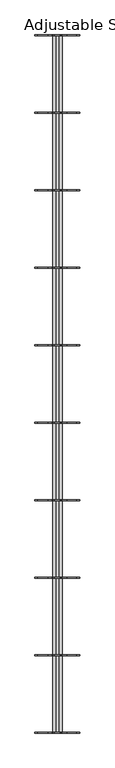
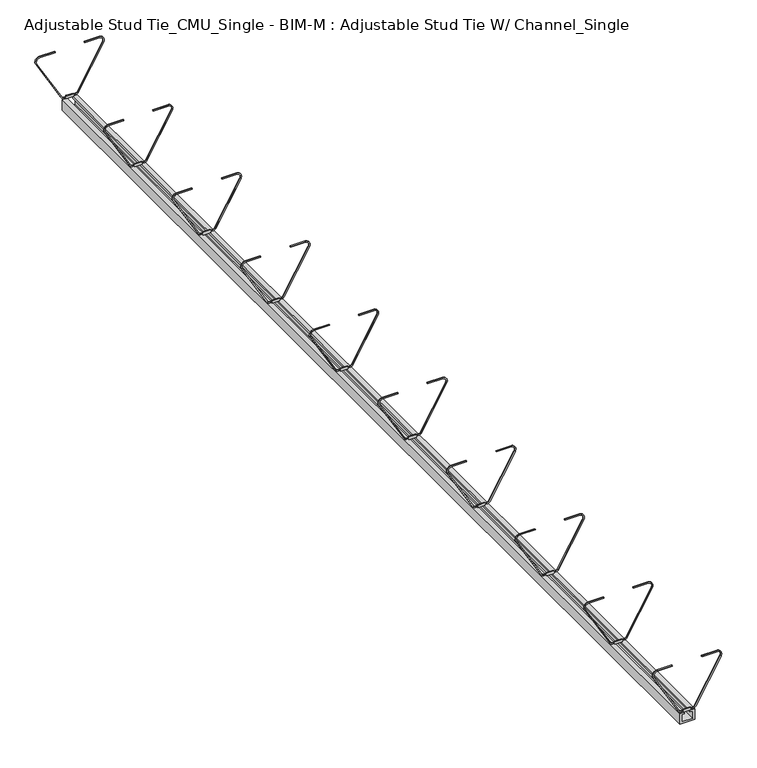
"""IFC4 building model written with IfcOpenShell, lengths in millimetres: proxy geometry, Adjustable Stud Tie_CMU_Single - BIM-M : Adjustable Stud Tie W/ Channel_Single."""

import ifcopenshell
import ifcopenshell.guid

model = None  # the IFC model being written
_history = None  # IfcOwnerHistory: only IFC2X3 demands one
_inside = {}  # id of a spatial element -> (the spatial element, [elements in it])
_under = {}  # id of a project, library or spatial element -> (it, [spatial elements below it])
_declared = {}  # id of a project -> (the project, [libraries it declares])
_typed = {}  # id of a type object -> (the type object, [elements of that type])
_made_of = {}  # id of a material, layer set ... -> (it, [elements and type objects made of it])


def new_model(schema):
    """Start an empty IFC model of exactly this schema.

    Asked for "IFC4X3", IfcOpenShell would pick the latest addendum, in which some entities
    have other attributes; the version numbers below select the first issue.
    IFC2X3 requires an IfcOwnerHistory on every rooted entity: one is made here for all.
    """
    global model, _history
    if schema == "IFC4X3":
        model = ifcopenshell.file(schema_version=(4, 3, 0, 0))
    else:
        model = ifcopenshell.file(schema=schema)
    _inside.clear()
    _under.clear()
    _declared.clear()
    _typed.clear()
    _made_of.clear()
    _history = None
    if model.schema == "IFC2X3":
        org = make("IfcOrganization", Name="unknown")
        user = make(
            "IfcPersonAndOrganization",
            ThePerson=make("IfcPerson", FamilyName="unknown"),
            TheOrganization=org,
        )
        app = make(
            "IfcApplication",
            ApplicationDeveloper=org,
            Version="unknown",
            ApplicationFullName="unknown",
            ApplicationIdentifier="unknown",
        )
        _history = make(
            "IfcOwnerHistory",
            OwningUser=user,
            OwningApplication=app,
            ChangeAction="ADDED",
            CreationDate=0,
        )
    return model


def make(cls, **values):
    """One entity of the class cls with the attributes given. An attribute that is None is left unset."""
    return model.create_entity(
        cls, **{name: value for name, value in values.items() if value is not None}
    )


def rooted(cls, **values):
    """An entity with a GlobalId (a new one), such as an element, a storey or a relation."""
    return make(cls, GlobalId=ifcopenshell.guid.new(), OwnerHistory=_history, **values)


def si_unit(unit_type, name, prefix=None):
    """IfcSIUnit, for example si_unit("LENGTHUNIT", "METRE", prefix="MILLI")."""
    return make("IfcSIUnit", UnitType=unit_type, Prefix=prefix, Name=name)


def assignment(units):
    """IfcUnitAssignment: the units of a project."""
    return None if units is None else make("IfcUnitAssignment", Units=units)


def point(xyz):
    """IfcCartesianPoint."""
    return None if xyz is None else make("IfcCartesianPoint", Coordinates=xyz)


def direction(xyz):
    """IfcDirection."""
    return None if xyz is None else make("IfcDirection", DirectionRatios=xyz)


def frame(location, z_axis=None, x_axis=None):
    """IfcAxis2Placement3D, a coordinate frame: its origin and axes. An axis left out is left unset."""
    return make(
        "IfcAxis2Placement3D",
        Location=point(location),
        Axis=direction(z_axis),
        RefDirection=direction(x_axis),
    )


def frame_2d(location, x_axis=None):
    """IfcAxis2Placement2D, a coordinate frame in the plane: its origin and x axis."""
    return make(
        "IfcAxis2Placement2D", Location=point(location), RefDirection=direction(x_axis)
    )


def origin():
    """The frame at (0, 0, 0) with its axes left unset."""
    return frame((0.0, 0.0, 0.0))


def place(relative_to, where):
    """IfcLocalPlacement: puts the frame where relative to a parent placement (None: the world)."""
    return make(
        "IfcLocalPlacement", PlacementRelTo=relative_to, RelativePlacement=where
    )


def context(
    kind, dimensions, precision=None, world=None, true_north=None, identifier=None
):
    """IfcGeometricRepresentationContext, for example the 3D "Model" context."""
    return make(
        "IfcGeometricRepresentationContext",
        ContextIdentifier=identifier,
        ContextType=kind,
        CoordinateSpaceDimension=dimensions,
        Precision=precision,
        WorldCoordinateSystem=world,
        TrueNorth=true_north,
    )


def project(units=None, contexts=None):
    """IfcProject with its units and contexts."""
    return rooted(
        "IfcProject",
        Name="project",
        RepresentationContexts=contexts,
        UnitsInContext=assignment(units),
    )


def spatial(cls, under=None, at=None, **own):
    """A site, building, storey or space (cls), placed at a placement, below another one or the project."""
    s = rooted(cls, ObjectPlacement=at, **own)
    if under is not None:
        _under.setdefault(under.id(), (under, []))[1].append(s)
    return s


def polyline(points):
    """IfcPolyline through the points."""
    return make("IfcPolyline", Points=[point(p) for p in points])


def circle_curve(where, radius):
    """IfcCircle in the frame where."""
    return make("IfcCircle", Position=where, Radius=radius)


def trimmed(basis, trim1, trim2, sense, master):
    """IfcTrimmedCurve: the piece of a basis curve between two trims."""
    return make(
        "IfcTrimmedCurve",
        BasisCurve=basis,
        Trim1=trim1,
        Trim2=trim2,
        SenseAgreement=sense,
        MasterRepresentation=master,
    )


def segment(curve, same_sense, transition):
    """IfcCompositeCurveSegment."""
    return make(
        "IfcCompositeCurveSegment",
        Transition=transition,
        SameSense=same_sense,
        ParentCurve=curve,
    )


def composite_curve(segments, self_intersect=None):
    """IfcCompositeCurve: segments joined end to end."""
    return make("IfcCompositeCurve", Segments=segments, SelfIntersect=self_intersect)


def outline(outer, holes=None, kind="AREA"):
    """IfcArbitraryClosedProfileDef: a profile drawn as a closed curve; with holes, ...WithVoids."""
    if holes is None:
        return make("IfcArbitraryClosedProfileDef", ProfileType=kind, OuterCurve=outer)
    return make(
        "IfcArbitraryProfileDefWithVoids",
        ProfileType=kind,
        OuterCurve=outer,
        InnerCurves=holes,
    )


def extrude(swept, where, along, depth):
    """IfcExtrudedAreaSolid: the profile swept, set in the frame where, extruded along a direction by depth."""
    return make(
        "IfcExtrudedAreaSolid",
        SweptArea=swept,
        Position=where,
        ExtrudedDirection=direction(along),
        Depth=depth,
    )


def shape(context_of_items, identifier, shape_type, items):
    """IfcShapeRepresentation: the items that make up one representation, for example the "Body"."""
    return make(
        "IfcShapeRepresentation",
        ContextOfItems=context_of_items,
        RepresentationIdentifier=identifier,
        RepresentationType=shape_type,
        Items=items,
    )


def source(mapping_origin, context_of_items, identifier, shape_type, items):
    """IfcRepresentationMap: a shape defined once, which mapped items show again and again."""
    return make(
        "IfcRepresentationMap",
        MappingOrigin=mapping_origin,
        MappedRepresentation=shape(context_of_items, identifier, shape_type, items),
    )


def transform(
    local_origin,
    x_axis=None,
    y_axis=None,
    z_axis=None,
    scale=None,
    scale2=None,
    scale3=None,
    uniform=True,
):
    """IfcCartesianTransformationOperator3D, or its non-uniform kind. x_axis, y_axis, z_axis: its Axis1, 2, 3."""
    if uniform:
        return make(
            "IfcCartesianTransformationOperator3D",
            Axis1=direction(x_axis),
            Axis2=direction(y_axis),
            LocalOrigin=point(local_origin),
            Scale=scale,
            Axis3=direction(z_axis),
        )
    return make(
        "IfcCartesianTransformationOperator3DnonUniform",
        Axis1=direction(x_axis),
        Axis2=direction(y_axis),
        LocalOrigin=point(local_origin),
        Scale=scale,
        Axis3=direction(z_axis),
        Scale2=scale2,
        Scale3=scale3,
    )


def mapped(mapping_source, mapping_target):
    """IfcMappedItem: shows the shape of a source again, moved by a transform."""
    return make(
        "IfcMappedItem", MappingSource=mapping_source, MappingTarget=mapping_target
    )


def made_of(thing, what):
    """Note that an element or type object is made of a material, layer set ...; save() writes the relation."""
    if what is not None:
        _made_of.setdefault(what.id(), (what, []))[1].append(thing)
    return thing


def element(
    cls,
    number,
    at=None,
    inside=None,
    cuts=None,
    type_object=None,
    material=None,
    context=None,
    identifier="Body",
    shape_type=None,
    held_by="IfcProductDefinitionShape",
    body=None,
    shapes=None,
    **own,
):
    """One element of the class cls, such as IfcWall. Its Tag is "e" and its number.

    at: its placement. inside: the storey or other place that contains it. cuts: it is an
    opening in that element (IfcRelVoidsElement). A single representation is given by context,
    identifier, shape_type and body (its items); several are given by shapes. held_by: the class
    of the entity that holds the representations. save() writes the other relations.
    """
    e = rooted(cls, Tag="e%d" % number, ObjectPlacement=at, **own)
    if body is not None:
        shapes = [shape(context, identifier, shape_type, body)]
    if shapes is not None:
        e.Representation = make(held_by, Representations=shapes)
    if inside is not None:
        _inside.setdefault(inside.id(), (inside, []))[1].append(e)
    if cuts is not None:
        rooted(
            "IfcRelVoidsElement", RelatingBuildingElement=cuts, RelatedOpeningElement=e
        )
    if type_object is not None:
        _typed.setdefault(type_object.id(), (type_object, []))[1].append(e)
    return made_of(e, material)


def aggregate(whole, parts):
    """IfcRelAggregates: a whole, such as a stair, and the parts it consists of."""
    return rooted("IfcRelAggregates", RelatingObject=whole, RelatedObjects=parts)


def save(model, path):
    """Write the relations noted so far, then the file.

    IfcRelAggregates (storeys below a building ...), IfcRelContainedInSpatialStructure (elements
    in a storey), IfcRelDefinesByType, IfcRelAssociatesMaterial and IfcRelDeclares: one each for
    every whole, place, type object, material and project.
    """
    for whole, parts in _under.values():
        aggregate(whole, parts)
    for where, things in _inside.values():
        rooted(
            "IfcRelContainedInSpatialStructure",
            RelatedElements=things,
            RelatingStructure=where,
        )
    for kind, things in _typed.values():
        rooted("IfcRelDefinesByType", RelatedObjects=things, RelatingType=kind)
    for what, things in _made_of.values():
        rooted("IfcRelAssociatesMaterial", RelatedObjects=things, RelatingMaterial=what)
    for by, libraries in _declared.values():
        rooted("IfcRelDeclares", RelatingContext=by, RelatedDefinitions=libraries)
    model.write(path)


def adjustable_stud_tie_cmu_single_bim_m_adjustable_stud_tie_w_4d993568(model_context):
    return source(origin(), model_context, "Body", "SweptSolid", [
        extrude(outline(composite_curve([segment(polyline([(-115.6954737, -10.6919936), (-115.6954737, -6.35), (-117.475, -6.35), (-117.475, 6.35), (-115.6954737, 6.35), (-115.6954737, 10.6919936)]), True, "CONTINUOUS"), segment(trimmed(circle_curve(frame_2d((-111.2621335, 10.5975194)), 4.4343467), [point((-115.6954737, 10.6919936))], [point((-113.4793069, 14.4377763))], False, "CARTESIAN"), True, "CONTINUOUS"), segment(polyline([(-113.4793069, 14.4377763), (-38.3089403, 57.8374077)]), True, "CONTINUOUS"), segment(trimmed(circle_curve(frame_2d((-34.2420568, 50.7933588)), 8.133767), [point((-38.3089403, 57.8374077))], [point((-26.1197927, 51.2257847))], False, "CARTESIAN"), True, "CONTINUOUS"), segment(polyline([(-26.1197927, 51.2257847), (-26.1197927, 25.4), (-27.7072927, 25.4), (-27.7072927, 51.1812638)]), True, "CONTINUOUS"), segment(trimmed(circle_curve(frame_2d((-34.2420568, 50.7933588)), 6.546267), [point((-27.7072927, 51.1812638))], [point((-37.5151903, 56.4625923))], True, "CARTESIAN"), True, "CONTINUOUS"), segment(polyline([(-37.5151903, 56.4625923), (-112.6855569, 13.062961)]), True, "CONTINUOUS"), segment(trimmed(circle_curve(frame_2d((-111.2621335, 10.5975194)), 2.8468467), [point((-112.6855569, 13.062961))], [point((-114.1079737, 10.6732143))], True, "CARTESIAN"), True, "CONTINUOUS"), segment(polyline([(-114.1079737, 10.6732143), (-114.1079737, 6.35), (-112.7125, 6.35), (-112.7125, -6.35), (-114.1079737, -6.35), (-114.1079737, -10.6732143)]), True, "CONTINUOUS"), segment(trimmed(circle_curve(frame_2d((-111.2621335, -10.5975194)), 2.8468467), [point((-114.1079737, -10.6732143))], [point((-112.6855569, -13.062961))], True, "CARTESIAN"), True, "CONTINUOUS"), segment(polyline([(-112.6855569, -13.062961), (-37.5151903, -56.4625923)]), True, "CONTINUOUS"), segment(trimmed(circle_curve(frame_2d((-34.2420568, -50.7933588)), 6.546267), [point((-37.5151903, -56.4625923))], [point((-27.7072927, -51.1812638))], True, "CARTESIAN"), True, "CONTINUOUS"), segment(polyline([(-27.7072927, -51.1812638), (-27.7072927, -25.4), (-26.1197927, -25.4), (-26.1197927, -51.2257847)]), True, "CONTINUOUS"), segment(trimmed(circle_curve(frame_2d((-34.2420568, -50.7933588)), 8.133767), [point((-26.1197927, -51.2257847))], [point((-38.3089403, -57.8374077))], False, "CARTESIAN"), True, "CONTINUOUS"), segment(polyline([(-38.3089403, -57.8374077), (-113.4793069, -14.4377763)]), True, "CONTINUOUS"), segment(trimmed(circle_curve(frame_2d((-111.2621335, -10.5975194)), 4.4343467), [point((-113.4793069, -14.4377763))], [point((-115.6954737, -10.6919936))], False, "CARTESIAN"), True, "CONTINUOUS")], self_intersect=False)), frame((0.0, 1828.8, 0.0), z_axis=(0.0, 1.0, 0.0), x_axis=(0.0, 0.0, 1.0)), (0.0, 0.0, 1.0), 1.5875),
        extrude(outline(composite_curve([segment(polyline([(-115.6954737, -10.6919936), (-115.6954737, -6.35), (-117.475, -6.35), (-117.475, 6.35), (-115.6954737, 6.35), (-115.6954737, 10.6919936)]), True, "CONTINUOUS"), segment(trimmed(circle_curve(frame_2d((-111.2621335, 10.5975194)), 4.4343467), [point((-115.6954737, 10.6919936))], [point((-113.4793069, 14.4377763))], False, "CARTESIAN"), True, "CONTINUOUS"), segment(polyline([(-113.4793069, 14.4377763), (-38.3089403, 57.8374077)]), True, "CONTINUOUS"), segment(trimmed(circle_curve(frame_2d((-34.2420568, 50.7933588)), 8.133767), [point((-38.3089403, 57.8374077))], [point((-26.1197927, 51.2257847))], False, "CARTESIAN"), True, "CONTINUOUS"), segment(polyline([(-26.1197927, 51.2257847), (-26.1197927, 25.4), (-27.7072927, 25.4), (-27.7072927, 51.1812638)]), True, "CONTINUOUS"), segment(trimmed(circle_curve(frame_2d((-34.2420568, 50.7933588)), 6.546267), [point((-27.7072927, 51.1812638))], [point((-37.5151903, 56.4625923))], True, "CARTESIAN"), True, "CONTINUOUS"), segment(polyline([(-37.5151903, 56.4625923), (-112.6855569, 13.062961)]), True, "CONTINUOUS"), segment(trimmed(circle_curve(frame_2d((-111.2621335, 10.5975194)), 2.8468467), [point((-112.6855569, 13.062961))], [point((-114.1079737, 10.6732143))], True, "CARTESIAN"), True, "CONTINUOUS"), segment(polyline([(-114.1079737, 10.6732143), (-114.1079737, 6.35), (-112.7125, 6.35), (-112.7125, -6.35), (-114.1079737, -6.35), (-114.1079737, -10.6732143)]), True, "CONTINUOUS"), segment(trimmed(circle_curve(frame_2d((-111.2621335, -10.5975194)), 2.8468467), [point((-114.1079737, -10.6732143))], [point((-112.6855569, -13.062961))], True, "CARTESIAN"), True, "CONTINUOUS"), segment(polyline([(-112.6855569, -13.062961), (-37.5151903, -56.4625923)]), True, "CONTINUOUS"), segment(trimmed(circle_curve(frame_2d((-34.2420568, -50.7933588)), 6.546267), [point((-37.5151903, -56.4625923))], [point((-27.7072927, -51.1812638))], True, "CARTESIAN"), True, "CONTINUOUS"), segment(polyline([(-27.7072927, -51.1812638), (-27.7072927, -25.4), (-26.1197927, -25.4), (-26.1197927, -51.2257847)]), True, "CONTINUOUS"), segment(trimmed(circle_curve(frame_2d((-34.2420568, -50.7933588)), 8.133767), [point((-26.1197927, -51.2257847))], [point((-38.3089403, -57.8374077))], False, "CARTESIAN"), True, "CONTINUOUS"), segment(polyline([(-38.3089403, -57.8374077), (-113.4793069, -14.4377763)]), True, "CONTINUOUS"), segment(trimmed(circle_curve(frame_2d((-111.2621335, -10.5975194)), 4.4343467), [point((-113.4793069, -14.4377763))], [point((-115.6954737, -10.6919936))], False, "CARTESIAN"), True, "CONTINUOUS")], self_intersect=False)), frame((0.0, 1625.6, 0.0), z_axis=(0.0, 1.0, 0.0), x_axis=(0.0, 0.0, 1.0)), (0.0, 0.0, 1.0), 1.5875),
        extrude(outline(composite_curve([segment(polyline([(-115.6954737, -10.6919936), (-115.6954737, -6.35), (-117.475, -6.35), (-117.475, 6.35), (-115.6954737, 6.35), (-115.6954737, 10.6919936)]), True, "CONTINUOUS"), segment(trimmed(circle_curve(frame_2d((-111.2621335, 10.5975194)), 4.4343467), [point((-115.6954737, 10.6919936))], [point((-113.4793069, 14.4377763))], False, "CARTESIAN"), True, "CONTINUOUS"), segment(polyline([(-113.4793069, 14.4377763), (-38.3089403, 57.8374077)]), True, "CONTINUOUS"), segment(trimmed(circle_curve(frame_2d((-34.2420568, 50.7933588)), 8.133767), [point((-38.3089403, 57.8374077))], [point((-26.1197927, 51.2257847))], False, "CARTESIAN"), True, "CONTINUOUS"), segment(polyline([(-26.1197927, 51.2257847), (-26.1197927, 25.4), (-27.7072927, 25.4), (-27.7072927, 51.1812638)]), True, "CONTINUOUS"), segment(trimmed(circle_curve(frame_2d((-34.2420568, 50.7933588)), 6.546267), [point((-27.7072927, 51.1812638))], [point((-37.5151903, 56.4625923))], True, "CARTESIAN"), True, "CONTINUOUS"), segment(polyline([(-37.5151903, 56.4625923), (-112.6855569, 13.062961)]), True, "CONTINUOUS"), segment(trimmed(circle_curve(frame_2d((-111.2621335, 10.5975194)), 2.8468467), [point((-112.6855569, 13.062961))], [point((-114.1079737, 10.6732143))], True, "CARTESIAN"), True, "CONTINUOUS"), segment(polyline([(-114.1079737, 10.6732143), (-114.1079737, 6.35), (-112.7125, 6.35), (-112.7125, -6.35), (-114.1079737, -6.35), (-114.1079737, -10.6732143)]), True, "CONTINUOUS"), segment(trimmed(circle_curve(frame_2d((-111.2621335, -10.5975194)), 2.8468467), [point((-114.1079737, -10.6732143))], [point((-112.6855569, -13.062961))], True, "CARTESIAN"), True, "CONTINUOUS"), segment(polyline([(-112.6855569, -13.062961), (-37.5151903, -56.4625923)]), True, "CONTINUOUS"), segment(trimmed(circle_curve(frame_2d((-34.2420568, -50.7933588)), 6.546267), [point((-37.5151903, -56.4625923))], [point((-27.7072927, -51.1812638))], True, "CARTESIAN"), True, "CONTINUOUS"), segment(polyline([(-27.7072927, -51.1812638), (-27.7072927, -25.4), (-26.1197927, -25.4), (-26.1197927, -51.2257847)]), True, "CONTINUOUS"), segment(trimmed(circle_curve(frame_2d((-34.2420568, -50.7933588)), 8.133767), [point((-26.1197927, -51.2257847))], [point((-38.3089403, -57.8374077))], False, "CARTESIAN"), True, "CONTINUOUS"), segment(polyline([(-38.3089403, -57.8374077), (-113.4793069, -14.4377763)]), True, "CONTINUOUS"), segment(trimmed(circle_curve(frame_2d((-111.2621335, -10.5975194)), 4.4343467), [point((-113.4793069, -14.4377763))], [point((-115.6954737, -10.6919936))], False, "CARTESIAN"), True, "CONTINUOUS")], self_intersect=False)), frame((0.0, 1422.4, 0.0), z_axis=(0.0, 1.0, 0.0), x_axis=(0.0, 0.0, 1.0)), (0.0, 0.0, 1.0), 1.5875),
        extrude(outline(composite_curve([segment(polyline([(-115.6954737, -10.6919936), (-115.6954737, -6.35), (-117.475, -6.35), (-117.475, 6.35), (-115.6954737, 6.35), (-115.6954737, 10.6919936)]), True, "CONTINUOUS"), segment(trimmed(circle_curve(frame_2d((-111.2621335, 10.5975194)), 4.4343467), [point((-115.6954737, 10.6919936))], [point((-113.4793069, 14.4377763))], False, "CARTESIAN"), True, "CONTINUOUS"), segment(polyline([(-113.4793069, 14.4377763), (-38.3089403, 57.8374077)]), True, "CONTINUOUS"), segment(trimmed(circle_curve(frame_2d((-34.2420568, 50.7933588)), 8.133767), [point((-38.3089403, 57.8374077))], [point((-26.1197927, 51.2257847))], False, "CARTESIAN"), True, "CONTINUOUS"), segment(polyline([(-26.1197927, 51.2257847), (-26.1197927, 25.4), (-27.7072927, 25.4), (-27.7072927, 51.1812638)]), True, "CONTINUOUS"), segment(trimmed(circle_curve(frame_2d((-34.2420568, 50.7933588)), 6.546267), [point((-27.7072927, 51.1812638))], [point((-37.5151903, 56.4625923))], True, "CARTESIAN"), True, "CONTINUOUS"), segment(polyline([(-37.5151903, 56.4625923), (-112.6855569, 13.062961)]), True, "CONTINUOUS"), segment(trimmed(circle_curve(frame_2d((-111.2621335, 10.5975194)), 2.8468467), [point((-112.6855569, 13.062961))], [point((-114.1079737, 10.6732143))], True, "CARTESIAN"), True, "CONTINUOUS"), segment(polyline([(-114.1079737, 10.6732143), (-114.1079737, 6.35), (-112.7125, 6.35), (-112.7125, -6.35), (-114.1079737, -6.35), (-114.1079737, -10.6732143)]), True, "CONTINUOUS"), segment(trimmed(circle_curve(frame_2d((-111.2621335, -10.5975194)), 2.8468467), [point((-114.1079737, -10.6732143))], [point((-112.6855569, -13.062961))], True, "CARTESIAN"), True, "CONTINUOUS"), segment(polyline([(-112.6855569, -13.062961), (-37.5151903, -56.4625923)]), True, "CONTINUOUS"), segment(trimmed(circle_curve(frame_2d((-34.2420568, -50.7933588)), 6.546267), [point((-37.5151903, -56.4625923))], [point((-27.7072927, -51.1812638))], True, "CARTESIAN"), True, "CONTINUOUS"), segment(polyline([(-27.7072927, -51.1812638), (-27.7072927, -25.4), (-26.1197927, -25.4), (-26.1197927, -51.2257847)]), True, "CONTINUOUS"), segment(trimmed(circle_curve(frame_2d((-34.2420568, -50.7933588)), 8.133767), [point((-26.1197927, -51.2257847))], [point((-38.3089403, -57.8374077))], False, "CARTESIAN"), True, "CONTINUOUS"), segment(polyline([(-38.3089403, -57.8374077), (-113.4793069, -14.4377763)]), True, "CONTINUOUS"), segment(trimmed(circle_curve(frame_2d((-111.2621335, -10.5975194)), 4.4343467), [point((-113.4793069, -14.4377763))], [point((-115.6954737, -10.6919936))], False, "CARTESIAN"), True, "CONTINUOUS")], self_intersect=False)), frame((0.0, 1219.2, 0.0), z_axis=(0.0, 1.0, 0.0), x_axis=(0.0, 0.0, 1.0)), (0.0, 0.0, 1.0), 1.5875),
        extrude(outline(composite_curve([segment(polyline([(-115.6954737, -10.6919936), (-115.6954737, -6.35), (-117.475, -6.35), (-117.475, 6.35), (-115.6954737, 6.35), (-115.6954737, 10.6919936)]), True, "CONTINUOUS"), segment(trimmed(circle_curve(frame_2d((-111.2621335, 10.5975194)), 4.4343467), [point((-115.6954737, 10.6919936))], [point((-113.4793069, 14.4377763))], False, "CARTESIAN"), True, "CONTINUOUS"), segment(polyline([(-113.4793069, 14.4377763), (-38.3089403, 57.8374077)]), True, "CONTINUOUS"), segment(trimmed(circle_curve(frame_2d((-34.2420568, 50.7933588)), 8.133767), [point((-38.3089403, 57.8374077))], [point((-26.1197927, 51.2257847))], False, "CARTESIAN"), True, "CONTINUOUS"), segment(polyline([(-26.1197927, 51.2257847), (-26.1197927, 25.4), (-27.7072927, 25.4), (-27.7072927, 51.1812638)]), True, "CONTINUOUS"), segment(trimmed(circle_curve(frame_2d((-34.2420568, 50.7933588)), 6.546267), [point((-27.7072927, 51.1812638))], [point((-37.5151903, 56.4625923))], True, "CARTESIAN"), True, "CONTINUOUS"), segment(polyline([(-37.5151903, 56.4625923), (-112.6855569, 13.062961)]), True, "CONTINUOUS"), segment(trimmed(circle_curve(frame_2d((-111.2621335, 10.5975194)), 2.8468467), [point((-112.6855569, 13.062961))], [point((-114.1079737, 10.6732143))], True, "CARTESIAN"), True, "CONTINUOUS"), segment(polyline([(-114.1079737, 10.6732143), (-114.1079737, 6.35), (-112.7125, 6.35), (-112.7125, -6.35), (-114.1079737, -6.35), (-114.1079737, -10.6732143)]), True, "CONTINUOUS"), segment(trimmed(circle_curve(frame_2d((-111.2621335, -10.5975194)), 2.8468467), [point((-114.1079737, -10.6732143))], [point((-112.6855569, -13.062961))], True, "CARTESIAN"), True, "CONTINUOUS"), segment(polyline([(-112.6855569, -13.062961), (-37.5151903, -56.4625923)]), True, "CONTINUOUS"), segment(trimmed(circle_curve(frame_2d((-34.2420568, -50.7933588)), 6.546267), [point((-37.5151903, -56.4625923))], [point((-27.7072927, -51.1812638))], True, "CARTESIAN"), True, "CONTINUOUS"), segment(polyline([(-27.7072927, -51.1812638), (-27.7072927, -25.4), (-26.1197927, -25.4), (-26.1197927, -51.2257847)]), True, "CONTINUOUS"), segment(trimmed(circle_curve(frame_2d((-34.2420568, -50.7933588)), 8.133767), [point((-26.1197927, -51.2257847))], [point((-38.3089403, -57.8374077))], False, "CARTESIAN"), True, "CONTINUOUS"), segment(polyline([(-38.3089403, -57.8374077), (-113.4793069, -14.4377763)]), True, "CONTINUOUS"), segment(trimmed(circle_curve(frame_2d((-111.2621335, -10.5975194)), 4.4343467), [point((-113.4793069, -14.4377763))], [point((-115.6954737, -10.6919936))], False, "CARTESIAN"), True, "CONTINUOUS")], self_intersect=False)), frame((0.0, 1016.0, 0.0), z_axis=(0.0, 1.0, 0.0), x_axis=(0.0, 0.0, 1.0)), (0.0, 0.0, 1.0), 1.5875),
        extrude(outline(composite_curve([segment(polyline([(-115.6954737, -10.6919936), (-115.6954737, -6.35), (-117.475, -6.35), (-117.475, 6.35), (-115.6954737, 6.35), (-115.6954737, 10.6919936)]), True, "CONTINUOUS"), segment(trimmed(circle_curve(frame_2d((-111.2621335, 10.5975194)), 4.4343467), [point((-115.6954737, 10.6919936))], [point((-113.4793069, 14.4377763))], False, "CARTESIAN"), True, "CONTINUOUS"), segment(polyline([(-113.4793069, 14.4377763), (-38.3089403, 57.8374077)]), True, "CONTINUOUS"), segment(trimmed(circle_curve(frame_2d((-34.2420568, 50.7933588)), 8.133767), [point((-38.3089403, 57.8374077))], [point((-26.1197927, 51.2257847))], False, "CARTESIAN"), True, "CONTINUOUS"), segment(polyline([(-26.1197927, 51.2257847), (-26.1197927, 25.4), (-27.7072927, 25.4), (-27.7072927, 51.1812638)]), True, "CONTINUOUS"), segment(trimmed(circle_curve(frame_2d((-34.2420568, 50.7933588)), 6.546267), [point((-27.7072927, 51.1812638))], [point((-37.5151903, 56.4625923))], True, "CARTESIAN"), True, "CONTINUOUS"), segment(polyline([(-37.5151903, 56.4625923), (-112.6855569, 13.062961)]), True, "CONTINUOUS"), segment(trimmed(circle_curve(frame_2d((-111.2621335, 10.5975194)), 2.8468467), [point((-112.6855569, 13.062961))], [point((-114.1079737, 10.6732143))], True, "CARTESIAN"), True, "CONTINUOUS"), segment(polyline([(-114.1079737, 10.6732143), (-114.1079737, 6.35), (-112.7125, 6.35), (-112.7125, -6.35), (-114.1079737, -6.35), (-114.1079737, -10.6732143)]), True, "CONTINUOUS"), segment(trimmed(circle_curve(frame_2d((-111.2621335, -10.5975194)), 2.8468467), [point((-114.1079737, -10.6732143))], [point((-112.6855569, -13.062961))], True, "CARTESIAN"), True, "CONTINUOUS"), segment(polyline([(-112.6855569, -13.062961), (-37.5151903, -56.4625923)]), True, "CONTINUOUS"), segment(trimmed(circle_curve(frame_2d((-34.2420568, -50.7933588)), 6.546267), [point((-37.5151903, -56.4625923))], [point((-27.7072927, -51.1812638))], True, "CARTESIAN"), True, "CONTINUOUS"), segment(polyline([(-27.7072927, -51.1812638), (-27.7072927, -25.4), (-26.1197927, -25.4), (-26.1197927, -51.2257847)]), True, "CONTINUOUS"), segment(trimmed(circle_curve(frame_2d((-34.2420568, -50.7933588)), 8.133767), [point((-26.1197927, -51.2257847))], [point((-38.3089403, -57.8374077))], False, "CARTESIAN"), True, "CONTINUOUS"), segment(polyline([(-38.3089403, -57.8374077), (-113.4793069, -14.4377763)]), True, "CONTINUOUS"), segment(trimmed(circle_curve(frame_2d((-111.2621335, -10.5975194)), 4.4343467), [point((-113.4793069, -14.4377763))], [point((-115.6954737, -10.6919936))], False, "CARTESIAN"), True, "CONTINUOUS")], self_intersect=False)), frame((0.0, 812.8, 0.0), z_axis=(0.0, 1.0, 0.0), x_axis=(0.0, 0.0, 1.0)), (0.0, 0.0, 1.0), 1.5875),
        extrude(outline(composite_curve([segment(polyline([(-115.6954737, -10.6919936), (-115.6954737, -6.35), (-117.475, -6.35), (-117.475, 6.35), (-115.6954737, 6.35), (-115.6954737, 10.6919936)]), True, "CONTINUOUS"), segment(trimmed(circle_curve(frame_2d((-111.2621335, 10.5975194)), 4.4343467), [point((-115.6954737, 10.6919936))], [point((-113.4793069, 14.4377763))], False, "CARTESIAN"), True, "CONTINUOUS"), segment(polyline([(-113.4793069, 14.4377763), (-38.3089403, 57.8374077)]), True, "CONTINUOUS"), segment(trimmed(circle_curve(frame_2d((-34.2420568, 50.7933588)), 8.133767), [point((-38.3089403, 57.8374077))], [point((-26.1197927, 51.2257847))], False, "CARTESIAN"), True, "CONTINUOUS"), segment(polyline([(-26.1197927, 51.2257847), (-26.1197927, 25.4), (-27.7072927, 25.4), (-27.7072927, 51.1812638)]), True, "CONTINUOUS"), segment(trimmed(circle_curve(frame_2d((-34.2420568, 50.7933588)), 6.546267), [point((-27.7072927, 51.1812638))], [point((-37.5151903, 56.4625923))], True, "CARTESIAN"), True, "CONTINUOUS"), segment(polyline([(-37.5151903, 56.4625923), (-112.6855569, 13.062961)]), True, "CONTINUOUS"), segment(trimmed(circle_curve(frame_2d((-111.2621335, 10.5975194)), 2.8468467), [point((-112.6855569, 13.062961))], [point((-114.1079737, 10.6732143))], True, "CARTESIAN"), True, "CONTINUOUS"), segment(polyline([(-114.1079737, 10.6732143), (-114.1079737, 6.35), (-112.7125, 6.35), (-112.7125, -6.35), (-114.1079737, -6.35), (-114.1079737, -10.6732143)]), True, "CONTINUOUS"), segment(trimmed(circle_curve(frame_2d((-111.2621335, -10.5975194)), 2.8468467), [point((-114.1079737, -10.6732143))], [point((-112.6855569, -13.062961))], True, "CARTESIAN"), True, "CONTINUOUS"), segment(polyline([(-112.6855569, -13.062961), (-37.5151903, -56.4625923)]), True, "CONTINUOUS"), segment(trimmed(circle_curve(frame_2d((-34.2420568, -50.7933588)), 6.546267), [point((-37.5151903, -56.4625923))], [point((-27.7072927, -51.1812638))], True, "CARTESIAN"), True, "CONTINUOUS"), segment(polyline([(-27.7072927, -51.1812638), (-27.7072927, -25.4), (-26.1197927, -25.4), (-26.1197927, -51.2257847)]), True, "CONTINUOUS"), segment(trimmed(circle_curve(frame_2d((-34.2420568, -50.7933588)), 8.133767), [point((-26.1197927, -51.2257847))], [point((-38.3089403, -57.8374077))], False, "CARTESIAN"), True, "CONTINUOUS"), segment(polyline([(-38.3089403, -57.8374077), (-113.4793069, -14.4377763)]), True, "CONTINUOUS"), segment(trimmed(circle_curve(frame_2d((-111.2621335, -10.5975194)), 4.4343467), [point((-113.4793069, -14.4377763))], [point((-115.6954737, -10.6919936))], False, "CARTESIAN"), True, "CONTINUOUS")], self_intersect=False)), frame((0.0, 609.6, 0.0), z_axis=(0.0, 1.0, 0.0), x_axis=(0.0, 0.0, 1.0)), (0.0, 0.0, 1.0), 1.5875),
        extrude(outline(composite_curve([segment(polyline([(-115.6954737, -10.6919936), (-115.6954737, -6.35), (-117.475, -6.35), (-117.475, 6.35), (-115.6954737, 6.35), (-115.6954737, 10.6919936)]), True, "CONTINUOUS"), segment(trimmed(circle_curve(frame_2d((-111.2621335, 10.5975194)), 4.4343467), [point((-115.6954737, 10.6919936))], [point((-113.4793069, 14.4377763))], False, "CARTESIAN"), True, "CONTINUOUS"), segment(polyline([(-113.4793069, 14.4377763), (-38.3089403, 57.8374077)]), True, "CONTINUOUS"), segment(trimmed(circle_curve(frame_2d((-34.2420568, 50.7933588)), 8.133767), [point((-38.3089403, 57.8374077))], [point((-26.1197927, 51.2257847))], False, "CARTESIAN"), True, "CONTINUOUS"), segment(polyline([(-26.1197927, 51.2257847), (-26.1197927, 25.4), (-27.7072927, 25.4), (-27.7072927, 51.1812638)]), True, "CONTINUOUS"), segment(trimmed(circle_curve(frame_2d((-34.2420568, 50.7933588)), 6.546267), [point((-27.7072927, 51.1812638))], [point((-37.5151903, 56.4625923))], True, "CARTESIAN"), True, "CONTINUOUS"), segment(polyline([(-37.5151903, 56.4625923), (-112.6855569, 13.062961)]), True, "CONTINUOUS"), segment(trimmed(circle_curve(frame_2d((-111.2621335, 10.5975194)), 2.8468467), [point((-112.6855569, 13.062961))], [point((-114.1079737, 10.6732143))], True, "CARTESIAN"), True, "CONTINUOUS"), segment(polyline([(-114.1079737, 10.6732143), (-114.1079737, 6.35), (-112.7125, 6.35), (-112.7125, -6.35), (-114.1079737, -6.35), (-114.1079737, -10.6732143)]), True, "CONTINUOUS"), segment(trimmed(circle_curve(frame_2d((-111.2621335, -10.5975194)), 2.8468467), [point((-114.1079737, -10.6732143))], [point((-112.6855569, -13.062961))], True, "CARTESIAN"), True, "CONTINUOUS"), segment(polyline([(-112.6855569, -13.062961), (-37.5151903, -56.4625923)]), True, "CONTINUOUS"), segment(trimmed(circle_curve(frame_2d((-34.2420568, -50.7933588)), 6.546267), [point((-37.5151903, -56.4625923))], [point((-27.7072927, -51.1812638))], True, "CARTESIAN"), True, "CONTINUOUS"), segment(polyline([(-27.7072927, -51.1812638), (-27.7072927, -25.4), (-26.1197927, -25.4), (-26.1197927, -51.2257847)]), True, "CONTINUOUS"), segment(trimmed(circle_curve(frame_2d((-34.2420568, -50.7933588)), 8.133767), [point((-26.1197927, -51.2257847))], [point((-38.3089403, -57.8374077))], False, "CARTESIAN"), True, "CONTINUOUS"), segment(polyline([(-38.3089403, -57.8374077), (-113.4793069, -14.4377763)]), True, "CONTINUOUS"), segment(trimmed(circle_curve(frame_2d((-111.2621335, -10.5975194)), 4.4343467), [point((-113.4793069, -14.4377763))], [point((-115.6954737, -10.6919936))], False, "CARTESIAN"), True, "CONTINUOUS")], self_intersect=False)), frame((0.0, 406.4, 0.0), z_axis=(0.0, 1.0, 0.0), x_axis=(0.0, 0.0, 1.0)), (0.0, 0.0, 1.0), 1.5875),
        extrude(outline(composite_curve([segment(polyline([(-115.6954737, -10.6919936), (-115.6954737, -6.35), (-117.475, -6.35), (-117.475, 6.35), (-115.6954737, 6.35), (-115.6954737, 10.6919936)]), True, "CONTINUOUS"), segment(trimmed(circle_curve(frame_2d((-111.2621335, 10.5975194)), 4.4343467), [point((-115.6954737, 10.6919936))], [point((-113.4793069, 14.4377763))], False, "CARTESIAN"), True, "CONTINUOUS"), segment(polyline([(-113.4793069, 14.4377763), (-38.3089403, 57.8374077)]), True, "CONTINUOUS"), segment(trimmed(circle_curve(frame_2d((-34.2420568, 50.7933588)), 8.133767), [point((-38.3089403, 57.8374077))], [point((-26.1197927, 51.2257847))], False, "CARTESIAN"), True, "CONTINUOUS"), segment(polyline([(-26.1197927, 51.2257847), (-26.1197927, 25.4), (-27.7072927, 25.4), (-27.7072927, 51.1812638)]), True, "CONTINUOUS"), segment(trimmed(circle_curve(frame_2d((-34.2420568, 50.7933588)), 6.546267), [point((-27.7072927, 51.1812638))], [point((-37.5151903, 56.4625923))], True, "CARTESIAN"), True, "CONTINUOUS"), segment(polyline([(-37.5151903, 56.4625923), (-112.6855569, 13.062961)]), True, "CONTINUOUS"), segment(trimmed(circle_curve(frame_2d((-111.2621335, 10.5975194)), 2.8468467), [point((-112.6855569, 13.062961))], [point((-114.1079737, 10.6732143))], True, "CARTESIAN"), True, "CONTINUOUS"), segment(polyline([(-114.1079737, 10.6732143), (-114.1079737, 6.35), (-112.7125, 6.35), (-112.7125, -6.35), (-114.1079737, -6.35), (-114.1079737, -10.6732143)]), True, "CONTINUOUS"), segment(trimmed(circle_curve(frame_2d((-111.2621335, -10.5975194)), 2.8468467), [point((-114.1079737, -10.6732143))], [point((-112.6855569, -13.062961))], True, "CARTESIAN"), True, "CONTINUOUS"), segment(polyline([(-112.6855569, -13.062961), (-37.5151903, -56.4625923)]), True, "CONTINUOUS"), segment(trimmed(circle_curve(frame_2d((-34.2420568, -50.7933588)), 6.546267), [point((-37.5151903, -56.4625923))], [point((-27.7072927, -51.1812638))], True, "CARTESIAN"), True, "CONTINUOUS"), segment(polyline([(-27.7072927, -51.1812638), (-27.7072927, -25.4), (-26.1197927, -25.4), (-26.1197927, -51.2257847)]), True, "CONTINUOUS"), segment(trimmed(circle_curve(frame_2d((-34.2420568, -50.7933588)), 8.133767), [point((-26.1197927, -51.2257847))], [point((-38.3089403, -57.8374077))], False, "CARTESIAN"), True, "CONTINUOUS"), segment(polyline([(-38.3089403, -57.8374077), (-113.4793069, -14.4377763)]), True, "CONTINUOUS"), segment(trimmed(circle_curve(frame_2d((-111.2621335, -10.5975194)), 4.4343467), [point((-113.4793069, -14.4377763))], [point((-115.6954737, -10.6919936))], False, "CARTESIAN"), True, "CONTINUOUS")], self_intersect=False)), frame((0.0, 203.2, 0.0), z_axis=(0.0, 1.0, 0.0), x_axis=(0.0, 0.0, 1.0)), (0.0, 0.0, 1.0), 1.5875),
        extrude(outline(composite_curve([segment(polyline([(-115.6954737, -10.6919936), (-115.6954737, -6.35), (-117.475, -6.35), (-117.475, 6.35), (-115.6954737, 6.35), (-115.6954737, 10.6919936)]), True, "CONTINUOUS"), segment(trimmed(circle_curve(frame_2d((-111.2621335, 10.5975194)), 4.4343467), [point((-115.6954737, 10.6919936))], [point((-113.4793069, 14.4377763))], False, "CARTESIAN"), True, "CONTINUOUS"), segment(polyline([(-113.4793069, 14.4377763), (-38.3089403, 57.8374077)]), True, "CONTINUOUS"), segment(trimmed(circle_curve(frame_2d((-34.2420568, 50.7933588)), 8.133767), [point((-38.3089403, 57.8374077))], [point((-26.1197927, 51.2257847))], False, "CARTESIAN"), True, "CONTINUOUS"), segment(polyline([(-26.1197927, 51.2257847), (-26.1197927, 25.4), (-27.7072927, 25.4), (-27.7072927, 51.1812638)]), True, "CONTINUOUS"), segment(trimmed(circle_curve(frame_2d((-34.2420568, 50.7933588)), 6.546267), [point((-27.7072927, 51.1812638))], [point((-37.5151903, 56.4625923))], True, "CARTESIAN"), True, "CONTINUOUS"), segment(polyline([(-37.5151903, 56.4625923), (-112.6855569, 13.062961)]), True, "CONTINUOUS"), segment(trimmed(circle_curve(frame_2d((-111.2621335, 10.5975194)), 2.8468467), [point((-112.6855569, 13.062961))], [point((-114.1079737, 10.6732143))], True, "CARTESIAN"), True, "CONTINUOUS"), segment(polyline([(-114.1079737, 10.6732143), (-114.1079737, 6.35), (-112.7125, 6.35), (-112.7125, -6.35), (-114.1079737, -6.35), (-114.1079737, -10.6732143)]), True, "CONTINUOUS"), segment(trimmed(circle_curve(frame_2d((-111.2621335, -10.5975194)), 2.8468467), [point((-114.1079737, -10.6732143))], [point((-112.6855569, -13.062961))], True, "CARTESIAN"), True, "CONTINUOUS"), segment(polyline([(-112.6855569, -13.062961), (-37.5151903, -56.4625923)]), True, "CONTINUOUS"), segment(trimmed(circle_curve(frame_2d((-34.2420568, -50.7933588)), 6.546267), [point((-37.5151903, -56.4625923))], [point((-27.7072927, -51.1812638))], True, "CARTESIAN"), True, "CONTINUOUS"), segment(polyline([(-27.7072927, -51.1812638), (-27.7072927, -25.4), (-26.1197927, -25.4), (-26.1197927, -51.2257847)]), True, "CONTINUOUS"), segment(trimmed(circle_curve(frame_2d((-34.2420568, -50.7933588)), 8.133767), [point((-26.1197927, -51.2257847))], [point((-38.3089403, -57.8374077))], False, "CARTESIAN"), True, "CONTINUOUS"), segment(polyline([(-38.3089403, -57.8374077), (-113.4793069, -14.4377763)]), True, "CONTINUOUS"), segment(trimmed(circle_curve(frame_2d((-111.2621335, -10.5975194)), 4.4343467), [point((-113.4793069, -14.4377763))], [point((-115.6954737, -10.6919936))], False, "CARTESIAN"), True, "CONTINUOUS")], self_intersect=False)), frame((0.0, 0.0, 0.0), z_axis=(0.0, 1.0, 0.0), x_axis=(0.0, 0.0, 1.0)), (0.0, 0.0, 1.0), 1.5875),
        extrude(outline(polyline([(-136.525, 12.7), (-117.475, 12.7), (-117.475, 4.7669306), (-120.65, 4.7669306), (-120.65, 9.525), (-133.35, 9.525), (-133.35, -9.525), (-120.65, -9.525), (-120.65, -4.7669306), (-117.475, -4.7669306), (-117.475, -12.7), (-136.525, -12.7), (-136.525, 12.7)])), frame((0.0, 0.0, 0.0), z_axis=(0.0, 1.0, 0.0), x_axis=(0.0, 0.0, 1.0)), (0.0, 0.0, 1.0), 1828.8),
    ])


if __name__ == "__main__":
    model = new_model("IFC4")
    model_context = context("Model", 3, world=origin())
    ifc_project = project(units=[si_unit("LENGTHUNIT", "METRE", prefix="MILLI")], contexts=[model_context])
    site = spatial("IfcSite", under=ifc_project)
    building = spatial("IfcBuilding", under=site)
    placement = place(None, origin())
    adjustable_stud_tie_cmu_single_bim_m_adjustable_stud_tie_w_shape = adjustable_stud_tie_cmu_single_bim_m_adjustable_stud_tie_w_4d993568(model_context)
    element("IfcBuildingElementProxy", 1, Name="Adjustable Stud Tie_CMU_Single - BIM-M : Adjustable Stud Tie W/ Channel_Single", ObjectType="Adjustable Stud Tie_CMU_Single - BIM-M : Adjustable Stud Tie W/ Channel_Single", at=placement, inside=building, context=model_context, shape_type="MappedRepresentation", body=[
        mapped(adjustable_stud_tie_cmu_single_bim_m_adjustable_stud_tie_w_shape, transform((0.0, 0.0, 0.0), x_axis=(1.0, 0.0, 0.0), y_axis=(0.0, 1.0, 0.0), z_axis=(0.0, 0.0, 1.0))),
    ])
    save(model, "model.ifc")
